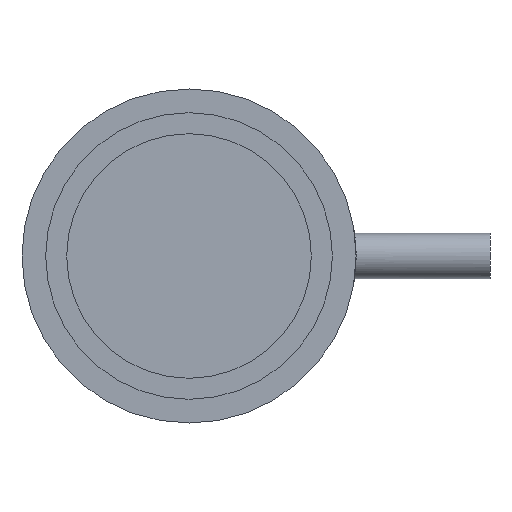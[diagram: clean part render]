
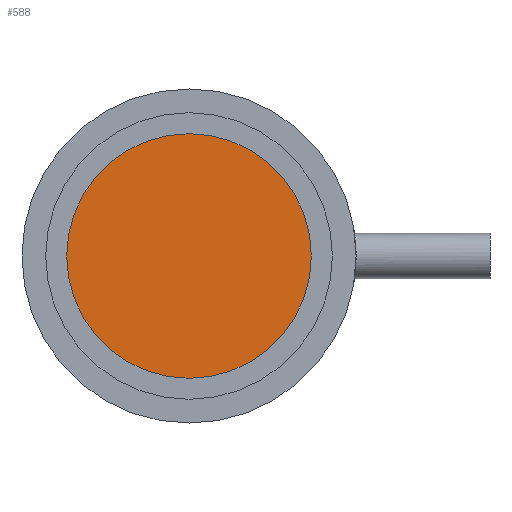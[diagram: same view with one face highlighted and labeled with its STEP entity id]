
A CAD part, front view. The second image highlights one B-rep face of the part: STEP entity #588.
In plain terms, the highlighted planar face has unit normal (0, -1, 0).
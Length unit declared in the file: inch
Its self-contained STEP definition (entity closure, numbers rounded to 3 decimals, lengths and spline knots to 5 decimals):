
#98 = CARTESIAN_POINT ( 'NONE',  ( 0., -0.12465, -0.32 ) ) ;
#99 = CARTESIAN_POINT ( 'NONE',  ( 0., -0.12465, 0.32 ) ) ;
#100 = DIRECTION ( 'NONE',  ( 0., 0., -1. ) ) ;
#101 = DIRECTION ( 'NONE',  ( 0., -1., 0. ) ) ;
#102 = CARTESIAN_POINT ( 'NONE',  ( 0., -0.12465, 0. ) ) ;
#103 = AXIS2_PLACEMENT_3D ( 'NONE', #102, #101, #100 ) ;
#104 = CIRCLE ( 'NONE', #103, 0.32 ) ;
#118 = EDGE_CURVE ( 'NONE', #119, #120, #104, .T. ) ;
#119 = VERTEX_POINT ( 'NONE', #99 ) ;
#120 = VERTEX_POINT ( 'NONE', #98 ) ;
#278 = DIRECTION ( 'NONE',  ( 0., 0., -1. ) ) ;
#279 = DIRECTION ( 'NONE',  ( 0., -1., 0. ) ) ;
#280 = CARTESIAN_POINT ( 'NONE',  ( 0., -0.12465, 0. ) ) ;
#281 = AXIS2_PLACEMENT_3D ( 'NONE', #280, #279, #278 ) ;
#284 = CIRCLE ( 'NONE', #281, 0.32 ) ;
#346 = DIRECTION ( 'NONE',  ( 0., 0., -1. ) ) ;
#347 = DIRECTION ( 'NONE',  ( 0., -1., 0. ) ) ;
#348 = CARTESIAN_POINT ( 'NONE',  ( 0., -0.12465, 0. ) ) ;
#349 = AXIS2_PLACEMENT_3D ( 'NONE', #348, #347, #346 ) ;
#350 = PLANE ( 'NONE',  #349 ) ;
#402 = FACE_OUTER_BOUND ( 'NONE', #589, .T. ) ;
#588 = ADVANCED_FACE ( 'NONE', ( #402 ), #350, .T. ) ;
#589 = EDGE_LOOP ( 'NONE', ( #590, #591 ) ) ;
#590 = ORIENTED_EDGE ( 'NONE', *, *, #609, .T. ) ;
#591 = ORIENTED_EDGE ( 'NONE', *, *, #118, .T. ) ;
#609 = EDGE_CURVE ( 'NONE', #120, #119, #284, .T. ) ;
